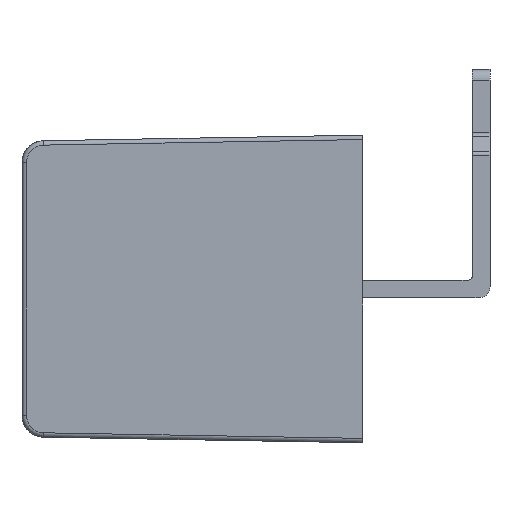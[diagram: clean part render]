
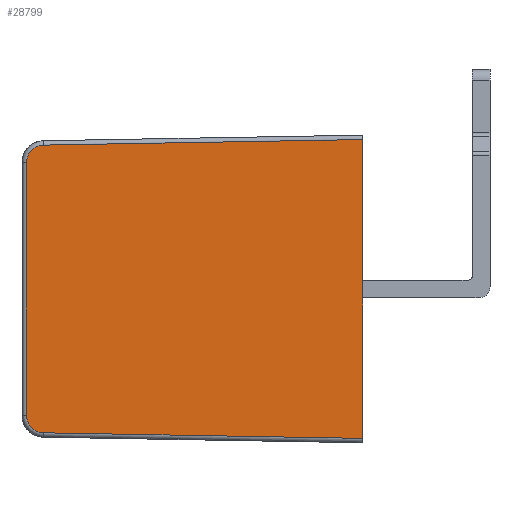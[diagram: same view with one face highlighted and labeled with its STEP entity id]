
A CAD part, left-side view. The second image highlights one B-rep face of the part: STEP entity #28799.
In plain terms, the highlighted planar face has unit normal (-1, 0, 0).
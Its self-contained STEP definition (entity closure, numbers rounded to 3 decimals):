
#6210=DIRECTION('',(0.,0.,-1.));
#6211=VECTOR('',#6210,13.6);
#6212=CARTESIAN_POINT('',(16.5,0.003,-0.2));
#6213=LINE('',#6212,#6211);
#6333=DIRECTION('',(0.,-1.,-0.017));
#6334=VECTOR('',#6333,14.516);
#6335=CARTESIAN_POINT('',(16.5,14.517,-13.547));
#6336=LINE('',#6335,#6334);
#6337=CARTESIAN_POINT('',(16.5,14.503,-12.747));
#6338=DIRECTION('',(-1.,0.,0.));
#6339=DIRECTION('',(0.,1.,0.));
#6340=AXIS2_PLACEMENT_3D('',#6337,#6338,#6339);
#6342=CARTESIAN_POINT('',(16.5,14.503,-1.253));
#6343=DIRECTION('',(-1.,0.,0.));
#6344=DIRECTION('',(0.,0.017,1.));
#6345=AXIS2_PLACEMENT_3D('',#6342,#6343,#6344);
#6347=DIRECTION('',(0.,1.,-0.017));
#6348=VECTOR('',#6347,14.516);
#6349=CARTESIAN_POINT('',(16.5,0.003,-0.2));
#6350=LINE('',#6349,#6348);
#6366=DIRECTION('',(0.,0.,1.));
#6367=VECTOR('',#6366,11.493);
#6368=CARTESIAN_POINT('',(16.5,15.303,-12.747));
#6369=LINE('',#6368,#6367);
#19741=CARTESIAN_POINT('',(16.5,14.517,-13.547));
#19742=CARTESIAN_POINT('',(16.5,0.003,-13.8));
#19743=VERTEX_POINT('',#19741);
#19744=VERTEX_POINT('',#19742);
#19745=CARTESIAN_POINT('',(16.5,15.303,-12.747));
#19746=VERTEX_POINT('',#19745);
#19747=CARTESIAN_POINT('',(16.5,15.303,-1.253));
#19748=VERTEX_POINT('',#19747);
#19749=CARTESIAN_POINT('',(16.5,14.517,-0.453));
#19750=VERTEX_POINT('',#19749);
#19751=CARTESIAN_POINT('',(16.5,0.003,-0.2));
#19752=VERTEX_POINT('',#19751);
#28782=CARTESIAN_POINT('',(16.5,0.003,-14.));
#28783=DIRECTION('',(-1.,0.,0.));
#28784=DIRECTION('',(0.,0.,1.));
#28785=AXIS2_PLACEMENT_3D('',#28782,#28783,#28784);
#28786=PLANE('',#28785);
#28787=ORIENTED_EDGE('',*,*,#28623,.T.);
#28788=ORIENTED_EDGE('',*,*,#28773,.F.);
#28790=ORIENTED_EDGE('',*,*,#28789,.F.);
#28792=ORIENTED_EDGE('',*,*,#28791,.T.);
#28794=ORIENTED_EDGE('',*,*,#28793,.F.);
#28796=ORIENTED_EDGE('',*,*,#28795,.F.);
#28797=EDGE_LOOP('',(#28787,#28788,#28790,#28792,#28794,#28796));
#28798=FACE_OUTER_BOUND('',#28797,.F.);
#28799=ADVANCED_FACE('',(#28798),#28786,.T.);
#6341=CIRCLE('',#6340,0.8);
#6346=CIRCLE('',#6345,0.8);
#28623=EDGE_CURVE('',#19752,#19744,#6213,.T.);
#28773=EDGE_CURVE('',#19743,#19744,#6336,.T.);
#28789=EDGE_CURVE('',#19746,#19743,#6341,.T.);
#28791=EDGE_CURVE('',#19746,#19748,#6369,.T.);
#28793=EDGE_CURVE('',#19750,#19748,#6346,.T.);
#28795=EDGE_CURVE('',#19752,#19750,#6350,.T.);
